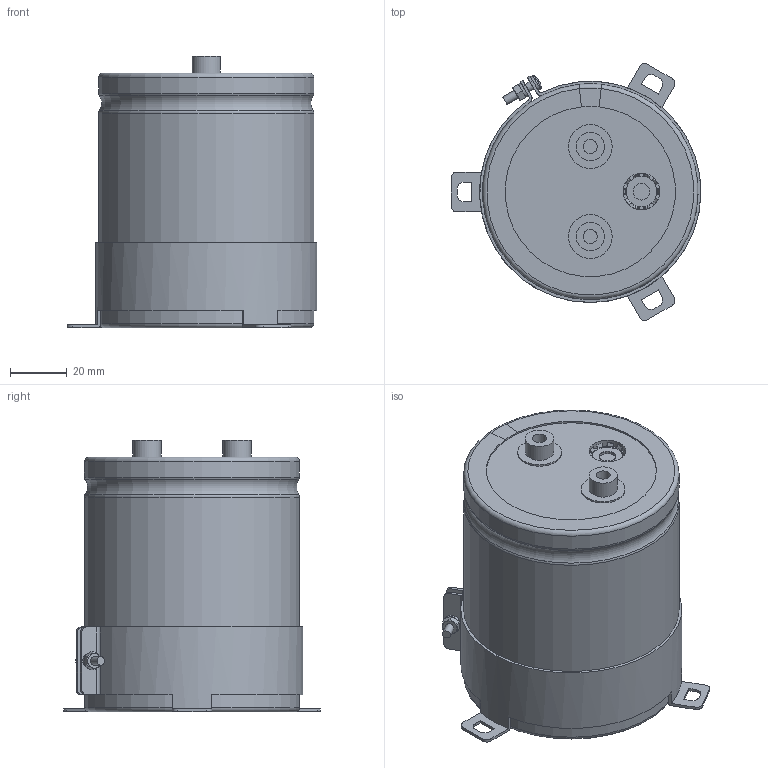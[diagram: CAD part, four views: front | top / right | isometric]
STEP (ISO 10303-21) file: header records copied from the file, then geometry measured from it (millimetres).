
FILE_DESCRIPTION(/* description */ (''),/* implementation_level */ '2;1');
FILE_NAME(/* name */ '76.2x90_Screw.stp',/* time_stamp */ '2017-09-17T13:18:40+09:00',/* author */ (''),/* organization */ (''),/* preprocessor_version */ 'ST-DEVELOPER v16',/* originating_system */ 'SIEMENS PLM Software NX 11.0',/* authorisation */ '');
FILE_SCHEMA (('AUTOMOTIVE_DESIGN { 1 0 10303 214 3 1 1 1 }'));
Length unit declared in the file: millimetre
Products named in the file (1): 76.2x90_Screw
Bounding box: 88.3 x 90.75 x 96 mm (x, y, z)
Volume: 412819.7 mm3; surface area: 94872.8 mm2
Topology: 9 solids, 9 shells, 259 faces, 642 edges, 413 vertices
Faces by surface type: plane 112, cylinder 66, torus 49, cone 31, sphere 1
Full cylindrical faces by diameter (mm): 3 x5, 5 x2, 5.5 x2, 6 x4, 8 x1, 10 x2, 13 x2, 15.5 x2, 75 x2
Entity records: 8534 total; most frequent: CARTESIAN_POINT 2182, DIRECTION 1296, ORIENTED_EDGE 1214, EDGE_CURVE 607, AXIS2_PLACEMENT_3D 541, VERTEX_POINT 408, EDGE_LOOP 317, CIRCLE 281
